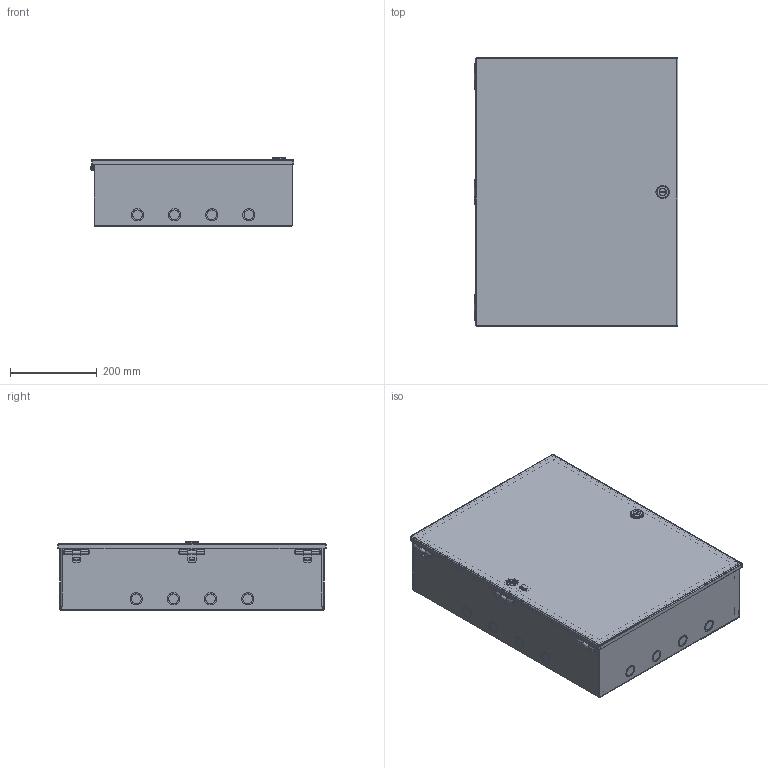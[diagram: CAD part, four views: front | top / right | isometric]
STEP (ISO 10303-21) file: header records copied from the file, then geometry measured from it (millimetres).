
FILE_DESCRIPTION(/* description */ ('1100EH 24" x 18" x 6" Assembly'),/* implementation_level */ '2;1');
FILE_NAME(/* name */ '1100EH241806.stp',/* time_stamp */ '2024-07-16T09:49:59-04:00',/* author */ ('BoxCad'),/* organization */ (''),/* preprocessor_version */ 'ST-DEVELOPER v20',/* originating_system */ 'Autodesk Inventor 2024',/* authorisation */ '');
FILE_SCHEMA (('AUTOMOTIVE_DESIGN { 1 0 10303 214 3 1 1 }'));
Products named in the file (13): 1100EH241806; 1100EH241806B; 1100EH241806B-P; STK-Q-33410-P; 1100EH241806C; 1100EH241806C-P; STK-P-02400S; STK-S-00800; STK-S-00900; STK-A-880SCQ1-SL-1; STK-Q-78631; STK-Q-78644; STK-Q-33610-S
Assembly tree (17 placements, depth 4):
  1100EH241806
    1100EH241806B
      1100EH241806B-P
      STK-Q-33410-P  x3
      STK-P-02400S
    1100EH241806C
      1100EH241806C-P
      STK-P-02400S
      STK-S-00800
      STK-S-00900
      STK-A-880SCQ1-SL-1
        STK-Q-78631
        STK-Q-78644
    STK-Q-33610-S  x3
Bounding box: 470.64 x 619.76 x 159.11 mm (x, y, z)
Volume: 1637449.3 mm3; surface area: 1916605.2 mm2
Topology: 12 solids, 12 shells, 4018 faces, 10395 edges, 6539 vertices
Faces by surface type: plane 2108, bspline 953, cylinder 749, torus 115, sphere 87, cone 6
Full cylindrical faces by diameter (mm): 0.762 x1, 1.1 x1, 1.3 x1, 3.8 x3, 4.496 x2, 4.5 x3, 7.366 x4, 7.925 x1, 8.7 x3, 9.525 x1, 27 x1, 29 x1, 30 x1, 31.75 x1
Entity records: 127581 total; most frequent: CARTESIAN_POINT 36693, ORIENTED_EDGE 19818, DIRECTION 15761, EDGE_CURVE 9909, LINE 6501, VECTOR 6501, VERTEX_POINT 6315, AXIS2_PLACEMENT_3D 4630
